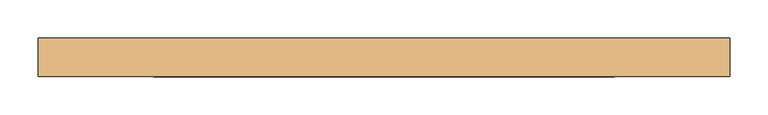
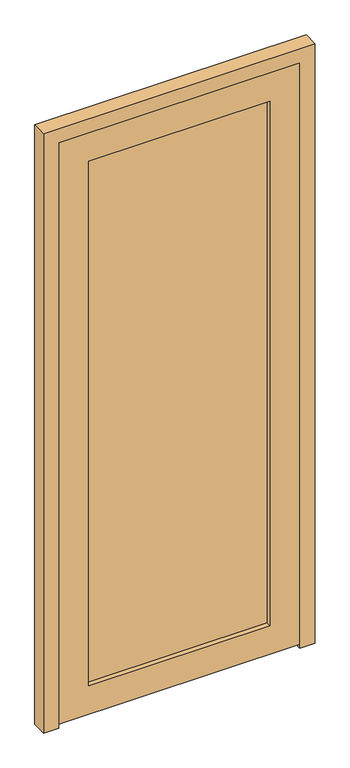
"""IFC4 building model written with IfcOpenShell, lengths in millimetres: door geometry, Dr_Дверь_v2.1 : ДВСГ Брг 21-9 Л_с вент решеткой."""

from ifc_helpers import new_model, si_unit, frame, origin, place, context, project, spatial, polyline, outline, extrude, source, transform, mapped, element, save


def door_86771e29(model_context):
    return source(origin(), model_context, "Body", "SweptSolid", [
        extrude(outline(polyline([(0.0, -325.0), (0.0, -275.0), (2050.0, -275.0), (2050.0, 525.0), (0.0, 525.0), (0.0, 575.0), (2100.0, 575.0), (2100.0, -325.0), (0.0, -325.0)])), frame((0.0, 10.0, 0.0), z_axis=(0.0, 1.0, 0.0), x_axis=(0.0, 0.0, 1.0)), (0.0, 0.0, 1.0), 50.0),
        extrude(outline(polyline([(2050.0, -275.0), (14.0, -275.0), (14.0, 525.0005417), (2050.0, 525.0005417), (2050.0, -275.0)]), holes=[polyline([(114.0, -175.0), (1950.0, -175.0), (1950.0, 425.0), (114.0, 425.0), (114.0, -175.0)])]), frame((0.0, 10.0, 0.0), z_axis=(0.0, 1.0, 0.0), x_axis=(0.0, 0.0, 1.0)), (0.0, 0.0, 1.0), 50.0),
        extrude(outline(polyline([(425.0, 30.0), (425.0, 25.0), (-175.0, 25.0), (-175.0, 30.0), (425.0, 30.0)])), frame((0.0, 0.0, 114.0), z_axis=(0.0, 0.0, 1.0), x_axis=(1.0, 0.0, 0.0)), (0.0, 0.0, 1.0), 1836.0),
    ])


if __name__ == "__main__":
    model = new_model("IFC4")
    model_context = context("Model", 3, world=origin())
    ifc_project = project(units=[si_unit("LENGTHUNIT", "METRE", prefix="MILLI")], contexts=[model_context])
    site = spatial("IfcSite", under=ifc_project)
    building = spatial("IfcBuilding", under=site)
    placement = place(None, origin())
    door_shape = door_86771e29(model_context)
    element("IfcDoor", 1, ObjectType="Dr_Дверь_v2.1 : ДВСГ Брг 21-9 Л_с вент решеткой", at=placement, inside=building, context=model_context, shape_type="MappedRepresentation", body=[
        mapped(door_shape, transform((0.0, 0.0, 0.0), x_axis=(1.0, 0.0, 0.0), y_axis=(0.0, 1.0, 0.0), z_axis=(0.0, 0.0, 1.0))),
    ])
    save(model, "model.ifc")
